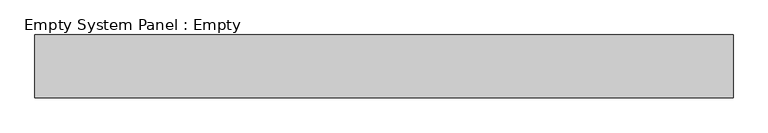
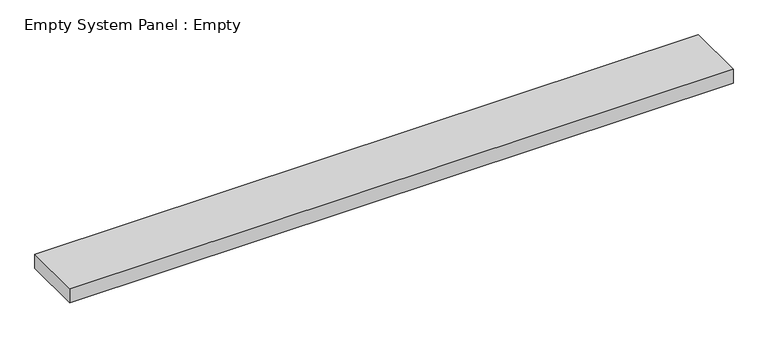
"""IFC4 building model written with IfcOpenShell, lengths in millimetres: plate geometry, Empty System Panel : Empty."""

from ifc_helpers import new_model, si_unit, origin, origin_with_axes, place, context, project, spatial, polyline, outline, extrude, source, transform, mapped, element, save


def empty_system_panel_empty_f50b0574(model_context):
    return source(origin(), model_context, "Body", "SweptSolid", [
        extrude(outline(polyline([(553.5714286, -50.0), (-553.5714286, -50.0), (-553.5714286, 50.0), (553.5714286, 50.0), (553.5714286, -50.0)])), origin_with_axes(), (0.0, 0.0, 1.0), 25.0),
    ])


if __name__ == "__main__":
    model = new_model("IFC4")
    model_context = context("Model", 3, world=origin())
    ifc_project = project(units=[si_unit("LENGTHUNIT", "METRE", prefix="MILLI")], contexts=[model_context])
    site = spatial("IfcSite", under=ifc_project)
    building = spatial("IfcBuilding", under=site)
    placement = place(None, origin())
    empty_system_panel_empty_shape = empty_system_panel_empty_f50b0574(model_context)
    element("IfcPlate", 1, ObjectType="Empty System Panel : Empty", at=placement, inside=building, context=model_context, shape_type="MappedRepresentation", body=[
        mapped(empty_system_panel_empty_shape, transform((0.0, 0.0, 0.0), x_axis=(1.0, 0.0, 0.0), y_axis=(0.0, 1.0, 0.0), z_axis=(0.0, 0.0, 1.0))),
    ])
    save(model, "model.ifc")
